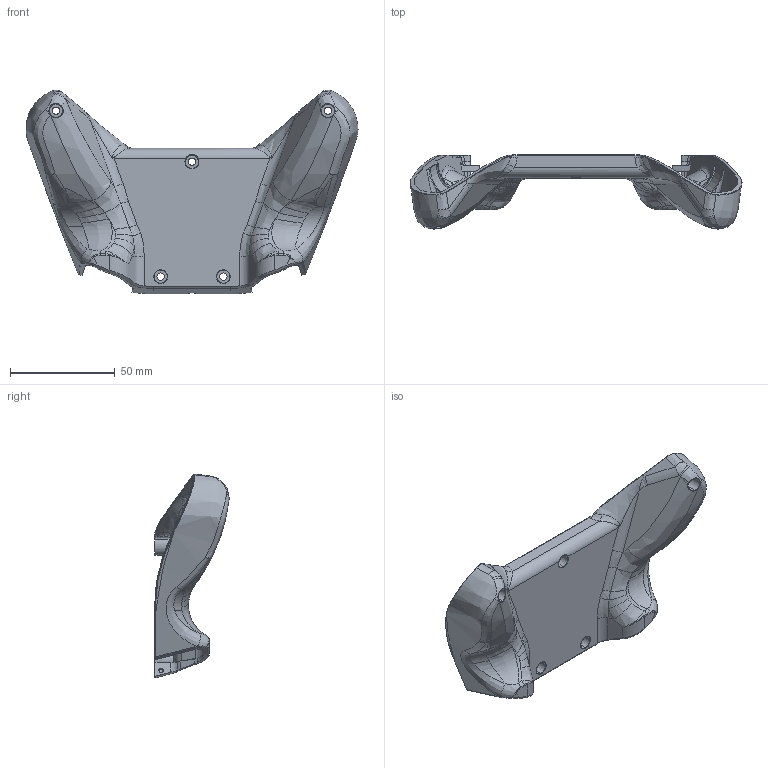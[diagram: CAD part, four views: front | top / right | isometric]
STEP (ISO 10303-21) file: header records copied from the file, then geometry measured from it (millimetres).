
FILE_DESCRIPTION (( 'STEP AP214' ), '1' );
FILE_NAME ('Controller Housing Bottom.STEP', '2024-12-19T21:58:28', ( '' ), ( '' ), 'SwSTEP 2.0', 'SolidWorks 2022', '' );
FILE_SCHEMA (( 'AUTOMOTIVE_DESIGN' ));
Length unit declared in the file: millimetre
Products named in the file (1): Controller Housing Bottom
Bounding box: 158.72 x 35.46 x 97.4 mm (x, y, z)
Volume: 36934.9 mm3; surface area: 35340.5 mm2
Topology: 1 solids, 1 shells, 605 faces, 1565 edges, 950 vertices
Faces by surface type: bspline 318, cylinder 137, plane 129, cone 12, torus 7, sphere 2
Entity records: 81914 total; most frequent: CARTESIAN_POINT 69993, ORIENTED_EDGE 3094, DIRECTION 1555, EDGE_CURVE 1547, VERTEX_POINT 950, B_SPLINE_CURVE_WITH_KNOTS 810, EDGE_LOOP 625, ADVANCED_FACE 605
